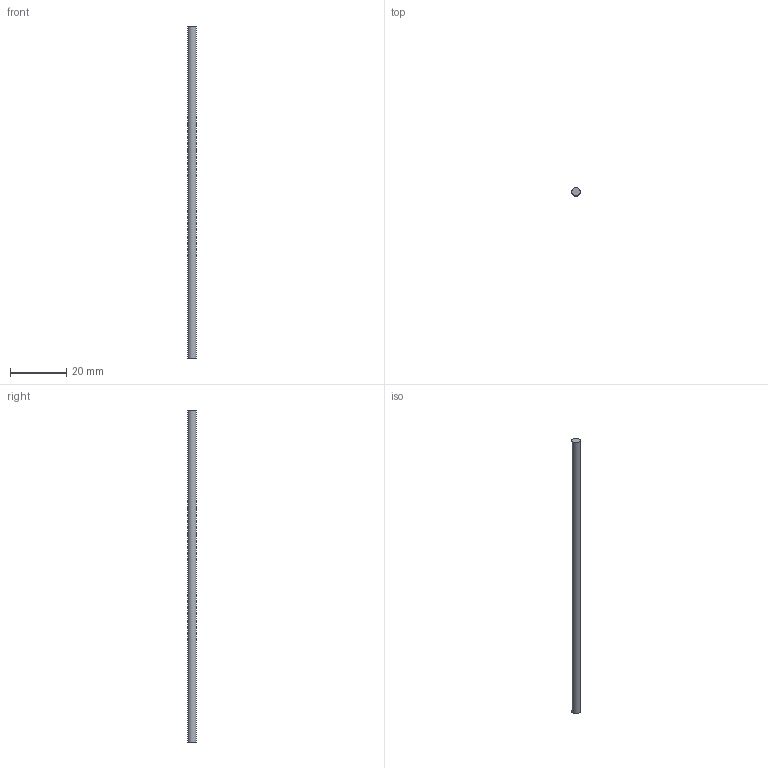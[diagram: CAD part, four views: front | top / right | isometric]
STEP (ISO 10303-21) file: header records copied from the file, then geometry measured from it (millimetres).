
FILE_DESCRIPTION(('Open CASCADE Model'),'2;1');
FILE_NAME('Open CASCADE Shape Model','2026-10-19T10:09:21',('Author'),( 'Open CASCADE'),'Open CASCADE STEP processor 8.0','Open CASCADE 8.0' ,'Unknown');
FILE_SCHEMA(('AUTOMOTIVE_DESIGN { 1 0 10303 214 1 1 1 1 }'));
Length unit declared in the file: millimetre
Products named in the file (1): TC18_CABLE_CAUTIVO_D3_SEG1_REF 119
Bounding box: 3 x 3 x 118.53 mm (x, y, z)
Volume: 837.9 mm3; surface area: 1131.3 mm2
Topology: 1 solids, 1 shells, 3 faces, 3 edges, 2 vertices
Faces by surface type: plane 2, cylinder 1
Full cylindrical faces by diameter (mm): 3 x1
Entity records: 108 total; most frequent: DIRECTION 19, CARTESIAN_POINT 15, AXIS2_PLACEMENT_3D 6, ORIENTED_EDGE 6, PCURVE 6, DEFINITIONAL_REPRESENTATION 6, LINE 5, VECTOR 5
